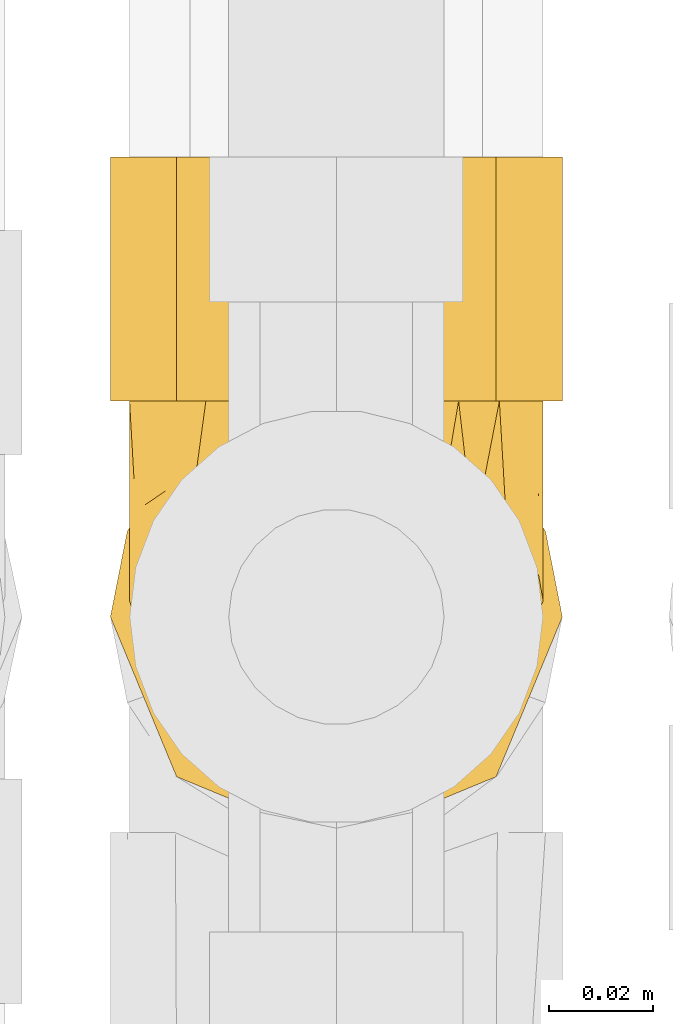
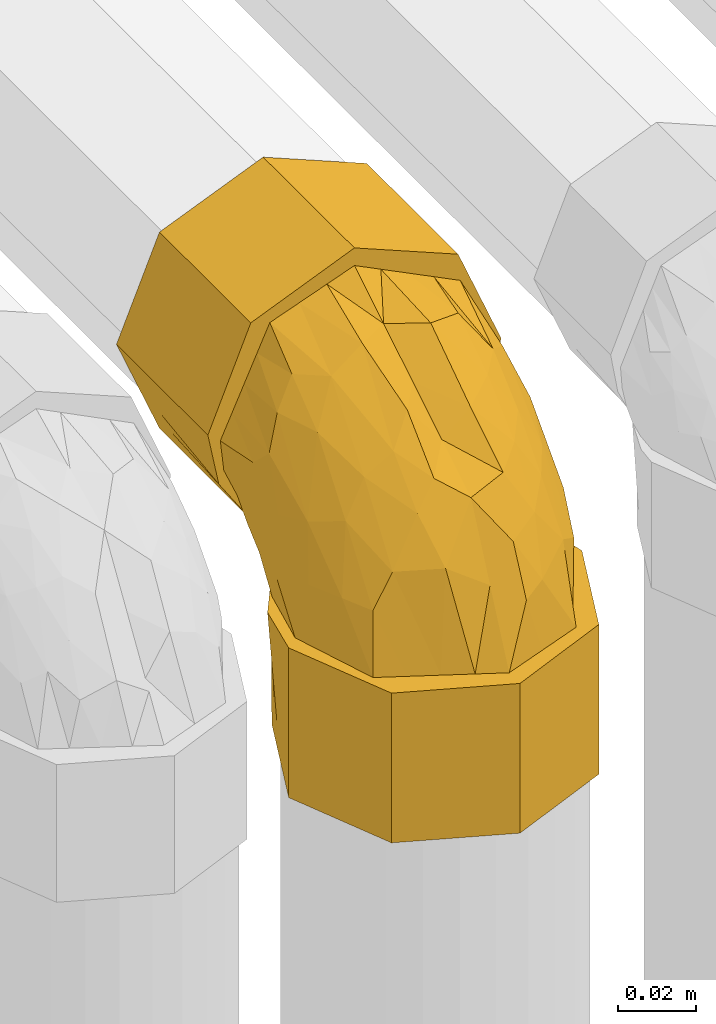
# One storey, part 233 of 652: 1 covering.
"""IFC2X3 building model written with IfcOpenShell, lengths in millimetres."""

from ifc_helpers import new_model, entity, si_unit, converted_unit, direction, frame, origin, place, context, subcontext, project, spatial, faceted_brep, material, type_object, element, save


model = new_model("IFC2X3")

# Units and contexts
model_context = context("Model", 3, precision=0.01, world=frame((0.0, 0.0, 308426.39999999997)), true_north=direction((6.123233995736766e-17, 1.0)))
plan_context = context("Plan", 3, precision=0.01, world=frame((0.0, 0.0, 308426.39999999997)), true_north=direction((6.123233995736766e-17, 1.0)))
body_context = subcontext(model_context, "Body", "Model", "MODEL_VIEW")
ifc_project = project(units=[si_unit("LENGTHUNIT", "METRE", prefix="MILLI"), si_unit("AREAUNIT", "SQUARE_METRE"), si_unit("VOLUMEUNIT", "CUBIC_METRE"), converted_unit("PLANEANGLEUNIT", "DEGREE", entity("IfcPlaneAngleMeasure", 0.017453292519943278), si_unit("PLANEANGLEUNIT", "RADIAN"), dimensions=[0, 0, 0, 0, 0, 0, 0])], contexts=[model_context, plan_context])

# Site, building, storey
site_placement = place(None, origin())
site = spatial("IfcSite", under=ifc_project, at=site_placement, Name="Default", CompositionType="ELEMENT")
building_placement = place(site_placement, origin())
building = spatial("IfcBuilding", under=site, at=building_placement, CompositionType="ELEMENT")
storey_placement = place(building_placement, frame((0.0, 0.0, 1730.6999999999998)))
storey = spatial("IfcBuildingStorey", under=building, at=storey_placement, Name="EG_Produktion_FFB", CompositionType="ELEMENT", Elevation=1730.6999999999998)

# Covering
ifc_material = material(Name="Dämmung - Armaflex-Schlauch")
covering_type = type_object("IfcCoveringType", Name="Rohrdämmung außen:Armaflex-Schlauch", PredefinedType="INSULATION")
covering_placement = place(storey_placement, frame((76635.09072776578, 51593.11908173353, 3811.8822499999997)))
element("IfcCovering", 1, at=covering_placement, inside=storey, type_object=covering_type, material=ifc_material, Name="Rohrdämmung außen:Armaflex-Schlauch", ObjectType="Rohrdämmung außen:Armaflex-Schlauch", PredefinedType="INSULATION", context=body_context, shape_type="Brep", body=[
    faceted_brep([(1.5952722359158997, 86.27477223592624, 88.11775000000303), (3.2140241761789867, 86.27477223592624, 79.90226074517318), (4.83277611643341, 86.27477223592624, 71.68677149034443), (9.444991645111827, 86.27477223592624, 64.70149861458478), (14.057207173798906, 86.27477223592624, 57.716225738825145), (10.189917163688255, 86.27477223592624, 66.55955447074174), (6.322627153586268, 86.27477223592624, 75.40288320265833), (5.271772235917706, 86.27477223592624, 85.04966346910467), (8.801210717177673, 86.27477223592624, 92.72698145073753), (12.330649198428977, 86.27477223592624, 100.40429943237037), (16.11426416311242, 86.27477223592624, 108.63450810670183), (19.897879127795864, 86.27477223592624, 116.8647167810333), (28.598847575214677, 86.27477223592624, 120.01964159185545), (36.75405990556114, 86.27477223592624, 122.97667814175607), (44.909272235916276, 86.27477223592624, 125.93371469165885), (52.71980785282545, 86.27477223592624, 122.03893490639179), (60.53034346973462, 86.27477223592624, 118.14415512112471), (68.34087908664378, 86.27477223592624, 114.24937533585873), (76.15141470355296, 86.27477223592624, 110.35459555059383), (79.15888739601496, 86.27477223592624, 101.28959838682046), (81.85282981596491, 86.27477223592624, 93.16963092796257), (84.54677223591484, 86.27477223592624, 85.04966346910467), (83.74827741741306, 86.27477223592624, 81.34938260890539), (82.94978259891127, 86.27477223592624, 77.64910174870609), (81.71182968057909, 86.27477223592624, 71.91234130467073), (80.47387676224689, 86.27477223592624, 66.17558086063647), (75.76133729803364, 86.27477223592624, 57.716225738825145), (80.37355282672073, 86.27477223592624, 64.70149861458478), (84.98576835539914, 86.27477223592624, 71.68677149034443), (86.43872591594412, 86.27477223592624, 79.0608211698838), (88.22327223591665, 86.27477223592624, 88.11775000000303), (84.75898186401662, 86.27477223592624, 96.48128679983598), (81.88008379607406, 86.27477223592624, 103.43156156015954), (78.70848957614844, 86.27477223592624, 111.08846734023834), (75.53689535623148, 86.27477223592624, 118.74537312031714), (67.87998957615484, 86.27477223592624, 121.91696734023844), (60.223083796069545, 86.27477223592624, 125.08856156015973), (53.27280775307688, 86.27477223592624, 127.96746015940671), (44.909272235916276, 86.27477223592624, 131.43175000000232), (36.54573552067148, 86.27477223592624, 127.96745966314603), (29.595460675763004, 86.27477223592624, 125.08856156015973), (21.938554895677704, 86.27477223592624, 121.91696734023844), (14.281649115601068, 86.27477223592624, 118.74537312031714), (11.110054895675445, 86.27477223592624, 111.08846734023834), (7.938460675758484, 86.27477223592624, 103.43156156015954), (5.059562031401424, 86.27477223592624, 96.48128540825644), (44.909272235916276, 133.02702223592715, 131.43175000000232), (52.56617801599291, 133.02702223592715, 128.2601557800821), (60.223083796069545, 133.02702223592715, 125.08856156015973), (67.87998957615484, 133.02702223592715, 121.91696734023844), (75.53689535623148, 133.02702223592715, 118.74537312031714), (78.4157932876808, 133.02702223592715, 111.79509868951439), (81.29469121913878, 133.02702223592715, 104.84482425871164), (84.75898172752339, 133.02702223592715, 96.48128712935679), (88.22327223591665, 133.02702223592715, 88.11775000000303), (85.05167801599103, 133.02702223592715, 80.4608442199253), (81.88008379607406, 133.02702223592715, 72.8039384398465), (78.7084895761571, 133.02702223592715, 65.1470326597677), (75.53689535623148, 133.02702223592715, 57.490126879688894), (67.87998957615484, 133.02702223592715, 54.318532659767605), (60.223083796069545, 133.02702223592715, 51.146938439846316), (52.56617801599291, 133.02702223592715, 47.97534421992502), (44.909272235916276, 133.02702223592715, 44.803750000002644), (36.54573690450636, 133.02702223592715, 48.26803976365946), (29.595460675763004, 133.02702223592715, 51.146938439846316), (21.938554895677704, 133.02702223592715, 54.318532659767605), (14.281649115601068, 133.02702223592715, 57.490126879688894), (11.110054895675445, 133.02702223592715, 65.1470326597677), (7.938460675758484, 133.02702223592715, 72.8039384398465), (4.766866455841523, 133.02702223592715, 80.4608442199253), (1.5952722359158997, 133.02702223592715, 88.11775000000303), (4.766866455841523, 133.02702223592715, 95.77465578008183), (7.938460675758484, 133.02702223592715, 103.43156156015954), (11.110054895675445, 133.02702223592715, 111.08846734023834), (14.281649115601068, 133.02702223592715, 118.74537312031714), (21.938554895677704, 133.02702223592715, 121.91696734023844), (29.595460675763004, 133.02702223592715, 125.08856156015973), (37.25236645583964, 133.02702223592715, 128.26015578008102), (58.75537900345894, 92.39161487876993, 47.0764546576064), (54.574402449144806, 92.723085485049, 46.390187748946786), (44.909272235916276, 93.48934344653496, 44.803750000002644), (67.25835815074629, 89.33319355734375, 52.396340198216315), (34.80170281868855, 92.24819953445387, 47.307090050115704), (24.694133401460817, 91.00705562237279, 49.810430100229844), (19.375670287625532, 88.64091392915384, 53.76332791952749), (1.5952722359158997, 44.90927223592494, 46.75225000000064), (5.059562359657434, 36.54573603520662, 46.75225000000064), (8.523852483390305, 28.1821998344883, 46.75225000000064), (11.402750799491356, 21.231924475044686, 46.75225000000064), (14.281649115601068, 14.28164911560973, 46.75225000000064), (21.938554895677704, 11.11005489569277, 46.75225000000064), (29.595460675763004, 7.938460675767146, 46.75225000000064), (36.545736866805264, 5.059562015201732, 46.75225000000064), (44.909272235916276, 1.5952722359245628, 46.75225000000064), (53.27280874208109, 5.05956248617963, 46.75225000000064), (60.223083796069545, 7.938460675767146, 46.75225000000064), (67.87998957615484, 11.11005489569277, 46.75225000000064), (75.53689535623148, 14.28164911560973, 46.75225000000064), (78.7084895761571, 21.938554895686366, 46.75225000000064), (81.88008379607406, 29.595460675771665, 46.75225000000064), (84.75898225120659, 36.54573637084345, 46.75225000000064), (88.22327223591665, 44.90927223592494, 46.75225000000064), (86.43872569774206, 53.966202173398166, 46.75225000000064), (84.98576835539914, 61.340250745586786, 46.75225000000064), (80.37355282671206, 68.3255236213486, 46.75225000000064), (75.76133729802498, 75.31079649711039, 46.75225000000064), (79.62862730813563, 66.46746776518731, 46.75225000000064), (83.49591731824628, 57.62413903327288, 46.75225000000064), (84.54677223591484, 47.977358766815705, 46.75225000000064), (80.88741617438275, 40.02124327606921, 46.75225000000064), (77.22806011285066, 32.065127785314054, 46.75225000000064), (73.56870405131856, 24.10901229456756, 46.75225000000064), (69.90934798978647, 16.15289680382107, 46.75225000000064), (57.40931011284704, 11.623102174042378, 46.75225000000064), (53.06523540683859, 10.04888564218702, 46.75225000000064), (44.909272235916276, 7.0933075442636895, 46.75225000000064), (37.09633037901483, 10.991250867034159, 46.75225000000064), (29.283388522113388, 14.88919418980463, 46.75225000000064), (21.470446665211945, 18.78713751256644, 46.75225000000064), (13.6575048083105, 22.685080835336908, 46.75225000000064), (9.464638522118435, 35.33121980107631, 46.75225000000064), (5.271772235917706, 47.977358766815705, 46.75225000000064), (6.070267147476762, 51.67764005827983, 46.75225000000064), (6.86876205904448, 55.37792134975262, 46.75225000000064), (8.1067148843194, 61.11468136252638, 46.75225000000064), (9.344667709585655, 66.85144137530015, 46.75225000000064), (14.05720717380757, 75.31079649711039, 46.75225000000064), (9.44499164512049, 68.3255236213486, 46.75225000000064), (4.83277611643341, 61.340250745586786, 46.75225000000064), (3.3798185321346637, 53.96620094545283, 46.75225000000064), (44.909272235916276, 88.22327223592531, 0.0), (53.272807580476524, 84.75898246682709, 0.0), (60.223083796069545, 81.88008379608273, 0.0), (67.87998957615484, 78.7084895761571, 0.0), (75.53689535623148, 75.53689535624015, 0.0), (78.7084895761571, 67.87998957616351, 0.0), (81.88008379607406, 60.223083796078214, 0.0), (85.05167801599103, 52.56617801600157, 0.0), (88.22327223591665, 44.90927223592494, 0.0), (85.05167801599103, 37.2523664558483, 0.0), (81.88008379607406, 29.595460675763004, 0.0), (78.7084895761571, 21.93855489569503, 0.0), (75.53689535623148, 14.28164911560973, 0.0), (68.58662082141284, 11.402751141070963, 0.0), (61.636346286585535, 8.523853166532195, 0.0), (53.27280926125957, 5.059562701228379, 0.0), (44.909272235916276, 1.5952722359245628, 0.0), (37.25236645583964, 4.766866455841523, 0.0), (29.595460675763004, 7.938460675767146, 0.0), (21.938554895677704, 11.11005489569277, 0.0), (14.281649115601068, 14.28164911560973, 0.0), (11.110054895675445, 21.938554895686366, 0.0), (7.938460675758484, 29.595460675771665, 0.0), (4.766866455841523, 37.2523664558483, 0.0), (1.5952722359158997, 44.90927223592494, 0.0), (4.766866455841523, 52.56617801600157, 0.0), (7.938460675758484, 60.223083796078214, 0.0), (11.110054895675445, 67.87998957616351, 0.0), (14.281649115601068, 75.53689535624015, 0.0), (21.938554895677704, 78.70848957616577, 0.0), (29.59546067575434, 81.88008379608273, 0.0), (37.25236645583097, 85.05167801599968, 0.0), (44.909272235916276, 88.22327223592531, 39.53767878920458), (55.01684165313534, 85.71993218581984, 40.77882270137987), (65.12441107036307, 83.2165921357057, 42.01996661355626), (70.44287418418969, 79.26369431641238, 44.386108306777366), (31.063165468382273, 85.95056757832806, 40.635407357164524), (35.24414219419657, 86.6368345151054, 40.30393673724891), (22.56018632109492, 80.63068203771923, 43.693828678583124), (81.09273684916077, 58.99785304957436, 88.72858929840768), (80.35025052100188, 40.76495524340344, 71.80382319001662), (83.6280712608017, 53.13060918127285, 72.71115145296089), (77.28613488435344, 66.63679529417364, 101.47231750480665), (64.25173145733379, 51.63006457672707, 106.11202433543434), (54.27933255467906, 43.111615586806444, 104.64770353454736), (63.71739303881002, 37.0192782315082, 94.19771313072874), (74.63873839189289, 41.789405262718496, 86.62501626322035), (65.32319999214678, 68.59720589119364, 114.67273218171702), (83.68880824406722, 68.36694301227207, 85.53949719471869), (53.24981008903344, 19.45712318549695, 77.34281905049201), (53.20563620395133, 12.66983833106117, 63.10899314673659), (59.6843396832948, 15.754807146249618, 65.4826557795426), (54.901138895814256, 64.55746227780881, 117.68734670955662), (71.23794594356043, 60.88033259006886, 106.03577265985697), (84.54677223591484, 69.69467833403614, 76.51750923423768), (71.08035146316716, 24.86256117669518, 68.47254870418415), (77.46966646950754, 30.39790731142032, 63.49346669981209), (44.909272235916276, 71.37519469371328, 116.84576107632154), (56.48927824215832, 30.260592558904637, 91.23926724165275), (44.909272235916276, 26.676462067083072, 89.58190023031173), (44.909272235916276, 16.88488480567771, 68.16707511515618), (44.909272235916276, 15.257114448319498, 64.60703401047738), (44.909272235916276, 56.47561715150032, 107.75780746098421), (69.81773948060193, 45.743746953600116, 96.84132058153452), (44.909272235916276, 41.576039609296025, 98.66985384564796), (62.763931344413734, 24.976312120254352, 79.9152318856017), (69.36255699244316, 33.113081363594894, 84.10944701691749), (84.54677223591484, 52.66636649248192, 53.1788962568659), (84.54677223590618, 57.355374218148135, 59.605542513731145), (84.54677223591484, 58.83601855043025, 61.63487961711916), (84.54677223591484, 63.52502627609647, 68.0615258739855), (84.54677223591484, 77.9847252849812, 80.78358635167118), (84.54677223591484, 82.69494815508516, 83.20747781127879), (83.21561390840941, 76.7660788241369, 69.0467012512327), (77.57009588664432, 78.47075535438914, 54.55626675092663), (80.01647633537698, 79.81672477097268, 61.111868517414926), (82.50076779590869, 72.36144172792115, 62.409136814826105), (44.909272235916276, 90.61786287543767, 42.40915936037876), (69.11943588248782, 84.55846897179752, 48.018516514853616), (83.42582518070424, 62.42424199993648, 55.41828837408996), (80.87166183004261, 70.33989982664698, 54.0007736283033), (83.31704110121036, 66.44091790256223, 60.14265850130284), (6.36983714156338, 77.75316620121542, 70.80808668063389), (5.271772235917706, 79.1151240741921, 81.36529215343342), (20.699109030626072, 85.00850621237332, 48.46855326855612), (12.277698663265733, 78.50079160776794, 54.52623050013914), (7.774699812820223, 70.60396120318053, 58.74435758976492), (8.780218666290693, 78.4647266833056, 62.718384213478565), (6.031535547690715, 70.42529171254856, 67.20716304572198), (5.8858975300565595, 65.67912818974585, 63.60418390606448), (5.271772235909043, 50.32186262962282, 49.96557312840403), (5.271772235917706, 52.666366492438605, 53.17889625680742), (5.271772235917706, 57.35537421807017, 59.60554251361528), (5.2717722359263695, 63.525026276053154, 68.06152587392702), (6.411600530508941, 63.002623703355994, 56.15572771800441), (5.271772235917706, 69.69467833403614, 76.51750923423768), (5.271772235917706, 58.83601855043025, 61.63487961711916), (17.88358938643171, 71.51170717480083, 110.48953732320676), (12.125086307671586, 69.01116982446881, 102.01509896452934), (16.90165112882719, 56.701226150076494, 101.6278383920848), (6.9647082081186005, 43.98287164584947, 65.19910851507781), (37.456410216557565, 46.3835096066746, 107.69923858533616), (21.961010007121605, 41.55313402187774, 95.05710334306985), (24.76338004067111, 63.249351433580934, 112.39514387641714), (8.181328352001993, 66.35650053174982, 92.18182718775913), (6.1333731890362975, 71.097333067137, 87.2149459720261), (15.727702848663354, 26.304606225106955, 64.7097016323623), (15.418239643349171, 39.69496521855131, 84.69214179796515), (10.995633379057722, 33.853624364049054, 65.71529073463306), (6.282339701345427, 58.273232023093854, 78.6211214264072), (9.351008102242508, 48.64795700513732, 81.21836113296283), (33.31902489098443, 19.562414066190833, 75.81996252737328), (37.185424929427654, 32.22607522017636, 94.93182715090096), (30.50188918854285, 29.054550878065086, 88.21869424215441), (35.010191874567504, 65.09145612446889, 117.95353214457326), (21.40322444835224, 26.02971117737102, 75.03858447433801), (30.26940447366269, 40.905739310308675, 100.58448414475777)], [[[0, 1, 2, 3, 4, 5, 6, 7, 8, 9, 10, 11, 12, 13, 14, 15, 16, 17, 18, 19, 20, 21, 22, 23, 24, 25, 26, 27, 28, 29, 30, 31, 32, 33, 34, 35, 36, 37, 38, 39, 40, 41, 42, 43, 44, 45]], [[46, 47, 48, 49, 50, 51, 52, 53, 54, 55, 56, 57, 58, 59, 60, 61, 62, 63, 64, 65, 66, 67, 68, 69, 70, 71, 72, 73, 74, 75, 76, 77]], [[26, 58, 57]], [[27, 26, 57]], [[61, 78, 79, 80]], [[30, 29, 55]], [[78, 60, 81]], [[29, 56, 55]], [[56, 28, 27]], [[30, 55, 54]], [[56, 27, 57]], [[56, 29, 28]], [[61, 80, 62]], [[58, 81, 60, 59]], [[61, 60, 78]], [[58, 26, 81]], [[31, 30, 54, 53, 52, 51, 50, 34, 33, 32]], [[34, 50, 49, 48, 47, 46, 38, 37, 36, 35]], [[0, 45, 44, 43, 42, 74, 73, 72, 71, 70]], [[76, 75, 74, 42, 41, 40, 39, 38, 46, 77]], [[70, 1, 0]], [[3, 2, 68]], [[82, 64, 63]], [[4, 67, 66]], [[3, 68, 67]], [[65, 83, 84, 4]], [[64, 82, 83]], [[68, 2, 69]], [[1, 70, 69]], [[63, 80, 82]], [[69, 2, 1]], [[67, 4, 3]], [[63, 62, 80]], [[65, 4, 66]], [[65, 64, 83]], [[85, 86, 87, 88, 89, 90, 91, 92, 93, 94, 95, 96, 97, 98, 99, 100, 101, 102, 103, 104, 105, 106, 107, 108, 109, 110, 111, 112, 113, 114, 115, 116, 117, 118, 119, 120, 121, 122, 123, 124, 125, 126, 127, 128, 129]], [[130, 131, 132, 133, 134, 135, 136, 137, 138, 139, 140, 141, 142, 143, 144, 145, 146, 147, 148, 149, 150, 151, 152, 153, 154, 155, 156, 157, 158, 159, 160, 161]], [[144, 143, 142, 97, 96, 95, 94, 93, 146, 145]], [[97, 142, 141, 140, 139, 138, 101, 100, 99, 98]], [[136, 102, 137]], [[105, 135, 134]], [[131, 130, 162]], [[101, 137, 102]], [[104, 136, 135]], [[104, 103, 136]], [[132, 163, 164]], [[163, 132, 131]], [[133, 164, 165, 105]], [[131, 162, 163]], [[101, 138, 137]], [[135, 105, 104]], [[102, 136, 103]], [[133, 105, 134]], [[133, 132, 164]], [[161, 162, 130]], [[85, 129, 155]], [[161, 166, 167, 162]], [[156, 128, 127]], [[166, 160, 168]], [[129, 156, 155]], [[157, 156, 127]], [[85, 155, 154]], [[158, 168, 160, 159]], [[156, 129, 128]], [[161, 160, 166]], [[158, 126, 168]], [[126, 157, 127]], [[126, 158, 157]], [[150, 89, 88, 87, 86, 85, 154, 153, 152, 151]], [[89, 150, 149, 148, 147, 146, 93, 92, 91, 90]], [[169, 170, 171]], [[19, 172, 169]], [[173, 174, 175]], [[176, 170, 169]], [[17, 16, 177]], [[21, 20, 178]], [[179, 180, 181]], [[182, 177, 16]], [[178, 20, 169]], [[19, 18, 172]], [[18, 17, 183]], [[20, 19, 169]], [[184, 178, 171]], [[185, 186, 176]], [[176, 169, 172]], [[176, 172, 183]], [[15, 187, 182]], [[183, 17, 177]], [[186, 111, 110]], [[175, 174, 188]], [[179, 189, 190, 191]], [[182, 173, 177]], [[183, 177, 173]], [[182, 16, 15]], [[173, 182, 174]], [[182, 192, 174]], [[173, 175, 193]], [[183, 172, 18]], [[188, 194, 189]], [[189, 179, 188]], [[185, 195, 181]], [[109, 170, 110]], [[185, 112, 111]], [[170, 186, 110]], [[196, 185, 176]], [[170, 109, 171]], [[171, 108, 197, 198, 199, 200, 184]], [[176, 186, 170]], [[185, 111, 186]], [[179, 181, 195]], [[108, 171, 109]], [[185, 181, 112]], [[181, 180, 113]], [[188, 179, 195]], [[188, 195, 175]], [[174, 194, 188]], [[196, 195, 185]], [[196, 176, 193]], [[115, 114, 113, 180]], [[112, 181, 113]], [[179, 191, 180]], [[115, 180, 191]], [[171, 178, 169]], [[174, 192, 194]], [[178, 184, 201, 202, 21]], [[187, 15, 14]], [[187, 192, 182]], [[193, 176, 183]], [[195, 196, 175]], [[173, 193, 183]], [[175, 196, 193]], [[203, 25, 24]], [[204, 26, 205]], [[206, 205, 203]], [[207, 80, 79]], [[203, 200, 206]], [[208, 165, 164]], [[78, 164, 163]], [[209, 107, 106]], [[204, 205, 206]], [[204, 210, 105]], [[107, 198, 197, 108]], [[210, 204, 206]], [[210, 209, 106]], [[79, 163, 207]], [[163, 79, 78]], [[207, 163, 162]], [[209, 210, 211]], [[198, 209, 211]], [[204, 165, 208]], [[78, 81, 26, 208]], [[105, 210, 106]], [[210, 206, 211]], [[208, 26, 204]], [[107, 209, 198]], [[204, 105, 165]], [[78, 208, 164]], [[26, 25, 205]], [[203, 205, 25]], [[202, 201, 24, 23, 22, 21]], [[200, 203, 184]], [[201, 203, 24]], [[203, 201, 184]], [[206, 200, 211]], [[211, 200, 199, 198]], [[207, 82, 80]], [[212, 213, 6]], [[84, 214, 215]], [[125, 216, 126]], [[7, 6, 213]], [[4, 217, 5]], [[218, 217, 216]], [[216, 217, 215]], [[167, 166, 82]], [[216, 215, 126]], [[166, 83, 82]], [[219, 218, 216]], [[215, 217, 4]], [[84, 83, 214]], [[122, 121, 220, 221, 222, 124, 123]], [[207, 162, 167]], [[218, 219, 223]], [[125, 224, 216]], [[6, 5, 212]], [[167, 82, 207]], [[166, 168, 126, 214]], [[218, 212, 217]], [[215, 4, 84]], [[214, 126, 215]], [[166, 214, 83]], [[223, 225, 218]], [[212, 218, 225]], [[212, 225, 213]], [[217, 212, 5]], [[216, 224, 219]], [[222, 224, 124]], [[219, 222, 226, 223]], [[224, 125, 124]], [[222, 219, 224]], [[227, 228, 229]], [[230, 121, 120]], [[194, 192, 231]], [[232, 233, 229]], [[234, 8, 235]], [[236, 237, 238]], [[9, 228, 10]], [[234, 235, 239]], [[240, 234, 239]], [[119, 236, 238]], [[241, 242, 243]], [[235, 7, 213, 225]], [[227, 11, 10]], [[9, 8, 234]], [[12, 233, 244]], [[227, 233, 11]], [[230, 226, 222, 221, 220, 121]], [[238, 237, 240]], [[241, 117, 116]], [[239, 230, 240]], [[239, 226, 230]], [[240, 230, 238]], [[238, 230, 120]], [[120, 119, 238]], [[118, 245, 236]], [[241, 245, 117]], [[237, 232, 229]], [[245, 243, 232]], [[229, 240, 237]], [[187, 13, 244]], [[233, 12, 11]], [[194, 231, 242]], [[246, 244, 233]], [[244, 192, 187]], [[239, 225, 223, 226]], [[228, 240, 229]], [[9, 234, 228]], [[240, 228, 234]], [[231, 244, 246]], [[194, 242, 189]], [[245, 232, 237]], [[233, 232, 246]], [[228, 227, 10]], [[233, 227, 229]], [[116, 190, 241]], [[190, 189, 241]], [[116, 115, 191, 190]], [[244, 231, 192]], [[231, 246, 242]], [[243, 242, 246]], [[241, 189, 242]], [[232, 243, 246]], [[245, 241, 243]], [[7, 235, 8]], [[225, 239, 235]], [[118, 117, 245]], [[237, 236, 245]], [[236, 119, 118]], [[13, 187, 14]], [[13, 12, 244]]]),
])

save(model, "model.ifc")
